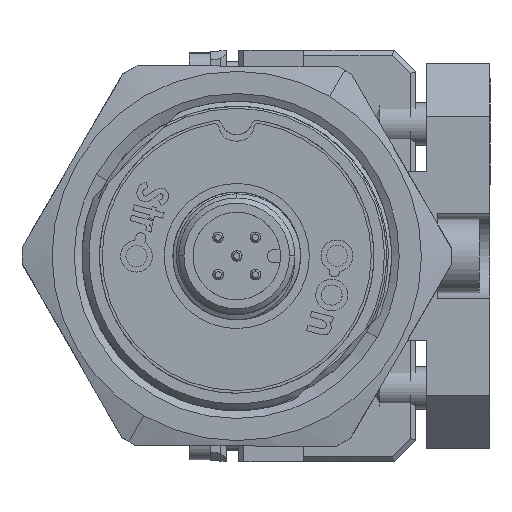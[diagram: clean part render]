
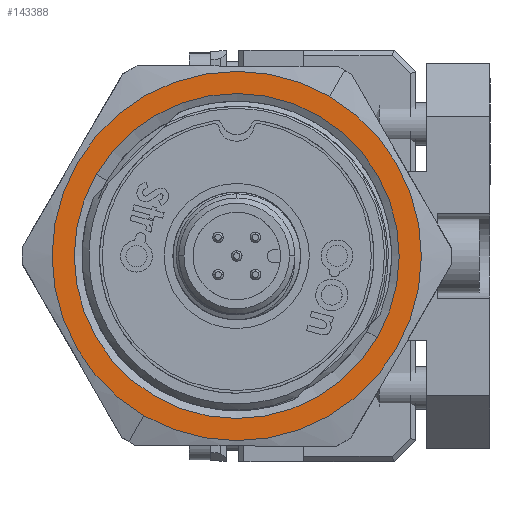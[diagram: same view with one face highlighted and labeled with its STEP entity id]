
A CAD part, front view. The second image highlights one B-rep face of the part: STEP entity #143388.
In plain terms, the highlighted planar face has unit normal (0, -1, 0) as drawn and (0, 0, 1) by its records, which use the part's own axes.
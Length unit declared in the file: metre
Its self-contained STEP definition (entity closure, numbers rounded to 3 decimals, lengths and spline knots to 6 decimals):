
#565 = AXIS2_PLACEMENT_3D ( 'NONE', #181149, #141749, #137774 ) ;
#3272 = CARTESIAN_POINT ( 'NONE',  ( 0., 0., 0.005 ) ) ;
#3548 = DIRECTION ( 'NONE',  ( 0., 1., 0. ) ) ;
#7567 = ORIENTED_EDGE ( 'NONE', *, *, #138024, .F. ) ;
#10790 = CARTESIAN_POINT ( 'NONE',  ( 0., 0., 0.005 ) ) ;
#22547 = AXIS2_PLACEMENT_3D ( 'NONE', #10790, #93541, #54151 ) ;
#27877 = CIRCLE ( 'NONE', #135998, 0.0175 ) ;
#28773 = CARTESIAN_POINT ( 'NONE',  ( 0., 0., 0.005 ) ) ;
#36135 = PLANE ( 'NONE',  #565 ) ;
#52588 = ORIENTED_EDGE ( 'NONE', *, *, #232668, .T. ) ;
#54151 = DIRECTION ( 'NONE',  ( 0., 1., 0. ) ) ;
#55930 = ORIENTED_EDGE ( 'NONE', *, *, #257291, .F. ) ;
#64300 = DIRECTION ( 'NONE',  ( 1., 0., 0. ) ) ;
#67283 = DIRECTION ( 'NONE',  ( 0., 0., -1. ) ) ;
#89800 = DIRECTION ( 'NONE',  ( 0., 0., -1. ) ) ;
#91904 = CIRCLE ( 'NONE', #22547, 0.0175 ) ;
#93541 = DIRECTION ( 'NONE',  ( 0., 0., -1. ) ) ;
#113686 = EDGE_LOOP ( 'NONE', ( #52588, #152907 ) ) ;
#124707 = EDGE_CURVE ( 'NONE', #263609, #142724, #247679, .T. ) ;
#130499 = CARTESIAN_POINT ( 'NONE',  ( 0., -0.0175, 0.005 ) ) ;
#135998 = AXIS2_PLACEMENT_3D ( 'NONE', #170267, #67283, #3548 ) ;
#137774 = DIRECTION ( 'NONE',  ( -1., 0., 0. ) ) ;
#138024 = EDGE_CURVE ( 'NONE', #176209, #266714, #27877, .T. ) ;
#141749 = DIRECTION ( 'NONE',  ( 0., 0., -1. ) ) ;
#142724 = VERTEX_POINT ( 'NONE', #255833 ) ;
#143388 = ADVANCED_FACE ( 'N', ( #240835, #263827 ), #36135, .F. ) ;
#152907 = ORIENTED_EDGE ( 'NONE', *, *, #124707, .T. ) ;
#165959 = DIRECTION ( 'NONE',  ( 0., 0., -1. ) ) ;
#169725 = AXIS2_PLACEMENT_3D ( 'NONE', #28773, #89800, #177768 ) ;
#170267 = CARTESIAN_POINT ( 'NONE',  ( 0., 0., 0.005 ) ) ;
#176209 = VERTEX_POINT ( 'NONE', #184197 ) ;
#177768 = DIRECTION ( 'NONE',  ( 1., 0., 0. ) ) ;
#181149 = CARTESIAN_POINT ( 'NONE',  ( -0.008624, 0.025763, 0.005 ) ) ;
#184197 = CARTESIAN_POINT ( 'NONE',  ( 0., 0.0175, 0.005 ) ) ;
#207275 = AXIS2_PLACEMENT_3D ( 'NONE', #3272, #165959, #64300 ) ;
#231711 = EDGE_LOOP ( 'NONE', ( #7567, #55930 ) ) ;
#232668 = EDGE_CURVE ( 'NONE', #142724, #263609, #263541, .T. ) ;
#240835 = FACE_OUTER_BOUND ( 'NONE', #231711, .T. ) ;
#247679 = CIRCLE ( 'NONE', #169725, 0.0154 ) ;
#249737 = CARTESIAN_POINT ( 'NONE',  ( -0.0154, 0., 0.005 ) ) ;
#255833 = CARTESIAN_POINT ( 'NONE',  ( 0.0154, 0., 0.005 ) ) ;
#257291 = EDGE_CURVE ( 'NONE', #266714, #176209, #91904, .T. ) ;
#263541 = CIRCLE ( 'NONE', #207275, 0.0154 ) ;
#263609 = VERTEX_POINT ( 'NONE', #249737 ) ;
#263827 = FACE_BOUND ( 'NONE', #113686, .T. ) ;
#266714 = VERTEX_POINT ( 'NONE', #130499 ) ;
